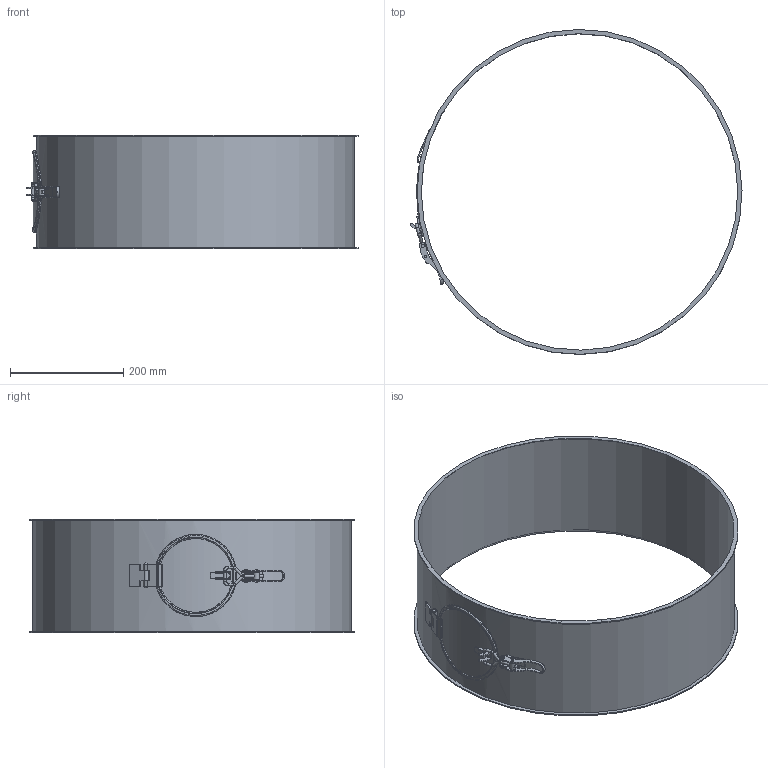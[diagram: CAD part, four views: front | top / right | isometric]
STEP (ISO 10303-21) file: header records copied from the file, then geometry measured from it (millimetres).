
FILE_DESCRIPTION((''),'2;1');
FILE_NAME('U:\Wolfgang\Marcel-3D\fertig\Kapitel 4\5611043.stp','2011-04-21T08:29:33',('TK1'),(''),'Autodesk Inventor 2010','Autodesk Inventor 2010','');
FILE_SCHEMA(('AUTOMOTIVE_DESIGN { 1 0 10303 214 1 1 1 1 }'));
Length unit declared in the file: millimetre
Products named in the file (15): 5611043 (Detailgenauigkeit1); 5611043-1; GelenkDeckel56b; GelenkDeckel1c; Deckel56; Deckel56b; GelenkDeckel35a; VerschlussDeckel56; dichtung56; Verschluss56; Verschluss56a; Verschluss1b; Verschluss1c; Verschluss1d; Verschluss1e
Assembly tree (15 placements, depth 3):
  5611043 (Detailgenauigkeit1)
    5611043-1
    GelenkDeckel56b
    GelenkDeckel1c
    Deckel56
      Deckel56b
      GelenkDeckel35a
      VerschlussDeckel56
      dichtung56
    Verschluss56
      Verschluss56a
      Verschluss1b
      Verschluss1c
      Verschluss1d  x2
      Verschluss1e
Bounding box: 585.47 x 572.98 x 200 mm (x, y, z)
Volume: 608764 mm3; surface area: 787948.1 mm2
Topology: 13 solids, 13 shells, 177 faces, 416 edges, 269 vertices
Faces by surface type: cylinder 81, plane 80, torus 9, bspline 5, sphere 2
Full cylindrical faces by diameter (mm): 2 x4, 4 x4, 5 x6, 6 x6, 6.2 x2, 10 x1, 115 x1, 130 x1, 135 x1, 145 x1, 558 x1, 561 x1, 573 x2
Entity records: 6783 total; most frequent: CARTESIAN_POINT 2526, DIRECTION 862, ORIENTED_EDGE 710, EDGE_CURVE 355, AXIS2_PLACEMENT_3D 341, VERTEX_POINT 252, EDGE_LOOP 241, VECTOR 180
